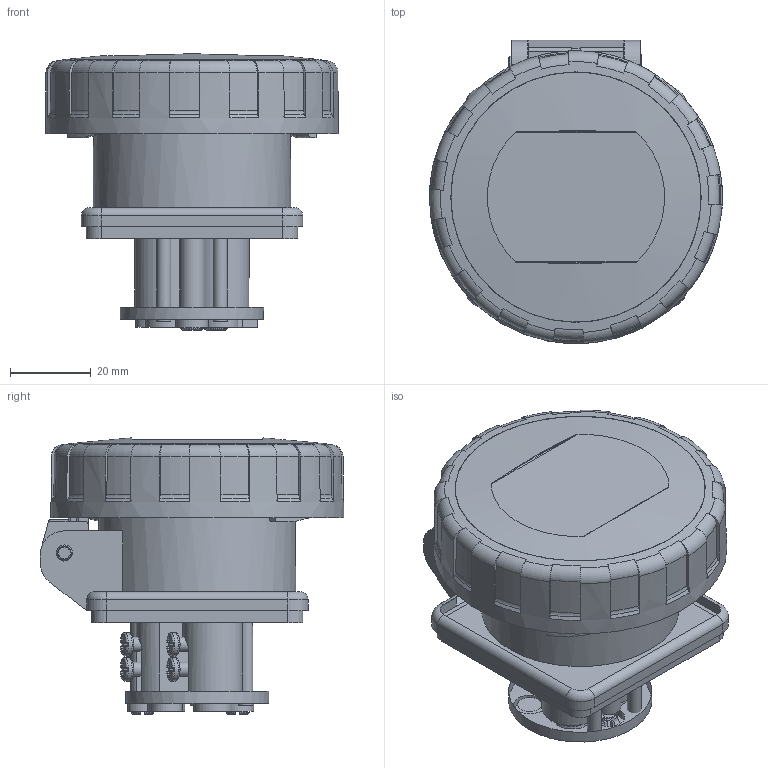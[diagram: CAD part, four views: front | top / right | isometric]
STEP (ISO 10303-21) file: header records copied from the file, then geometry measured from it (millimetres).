
FILE_DESCRIPTION(/* description */ (''),/* implementation_level */ '2;1');
FILE_NAME(/* name */ '4006089.stp',/* time_stamp */ '2017-04-20T20:20:09+02:00',/* author */ (''),/* organization */ (''),/* preprocessor_version */ 'ST-DEVELOPER v16',/* originating_system */ 'SIEMENS PLM Software NX 11.0',/* authorisation */ '');
FILE_SCHEMA (('AUTOMOTIVE_DESIGN { 1 0 10303 214 3 1 1 1 }'));
Length unit declared in the file: millimetre
Products named in the file (1): 4006089_LINKEDEXT_jt
Bounding box: 72.71 x 75.38 x 68.57 mm (x, y, z)
Surface area: 43676.9 mm2 (no closed solid volume)
Topology: 0 solids, 87 shells, 543 faces, 2177 edges, 1674 vertices
Faces by surface type: plane 217, torus 130, cylinder 104, cone 54, bspline 25, sphere 13
Full cylindrical faces by diameter (mm): 1 x2, 3 x2, 3.5 x9, 3.546 x2, 4 x1, 4.7 x3, 5.7 x1, 5.8 x6, 7.5 x2, 8 x2, 9.5 x2, 10 x3, 35.6 x1, 49 x1, 67 x1
Entity records: 34182 total; most frequent: CARTESIAN_POINT 12939, DIRECTION 3665, ORIENTED_EDGE 2913, EDGE_CURVE 2057, VERTEX_POINT 1636, AXIS2_PLACEMENT_3D 1424, LINE 817, VECTOR 817
